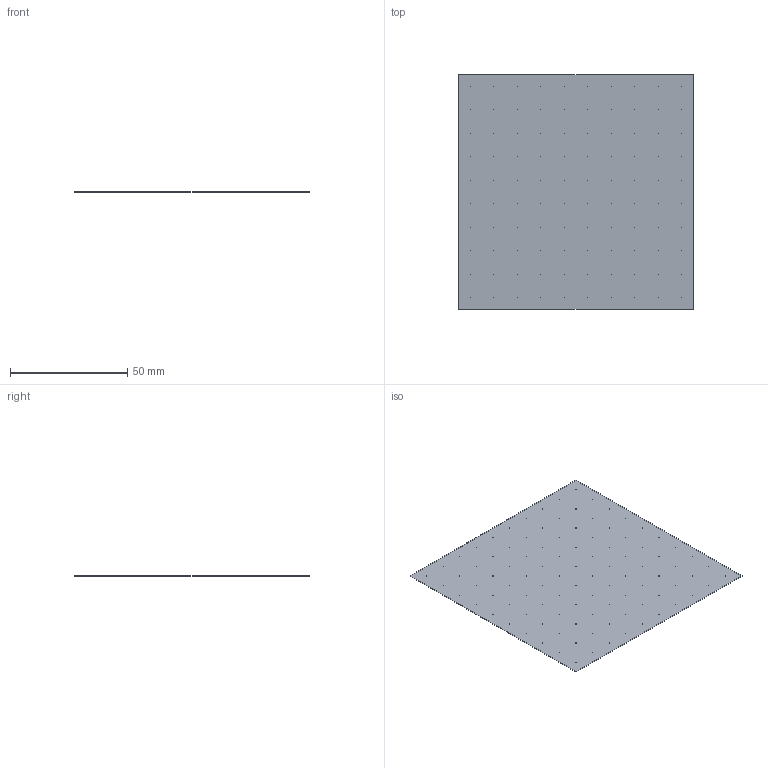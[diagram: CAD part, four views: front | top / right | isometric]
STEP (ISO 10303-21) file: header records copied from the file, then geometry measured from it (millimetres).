
FILE_DESCRIPTION(('STEP AP242'), '1');
FILE_NAME('ñåòêà äîïóñê îòâåðñòèé ', '', ('UNSPECIFIED'), ('UNSPECIFIED'), 'C3D Converter', 'C3D Toolkit', '');
FILE_SCHEMA(('AP242_MANAGED_MODEL_BASED_3D_ENGINEERING_MIM_LF { 1 0 10303 442 1 1 4 }'));
Length unit declared in the file: millimetre
Bounding box: 100 x 100 x 0.1 mm (x, y, z)
Volume: 1000 mm3; surface area: 20041.3 mm2
Topology: 1 solids, 1 shells, 106 faces, 312 edges, 208 vertices
Faces by surface type: cylinder 100, plane 6
Full cylindrical faces by diameter (mm): 0.06 x100
Entity records: 4444 total; most frequent: DIRECTION 626, CARTESIAN_POINT 527, ORIENTED_EDGE 424, EDGE_LOOP 406, AXIS2_PLACEMENT_3D 307, EDGE_CURVE 212, VERTEX_POINT 208, FACE_BOUND 206
